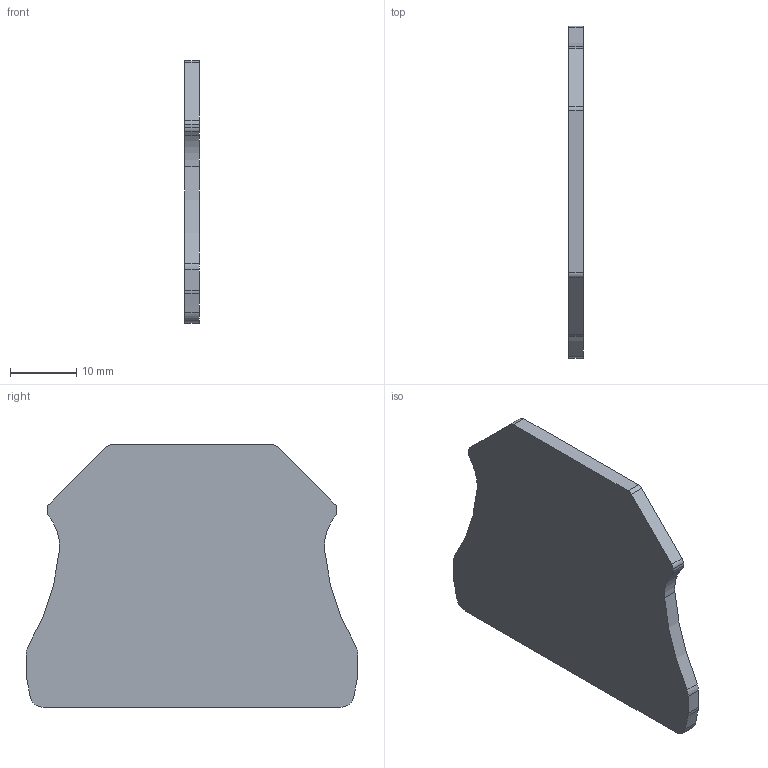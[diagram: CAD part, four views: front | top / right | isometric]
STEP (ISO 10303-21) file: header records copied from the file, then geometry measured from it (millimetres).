
FILE_DESCRIPTION( ('This file contains a STEP AP42 implementation' ,'as created by ZW3D STEP Interface translator.') ,'2;1' );
FILE_NAME( 'D-RUT2.5-10傷啣耀倰.stp' ,'23 4 7.18 1 6', (''), ('ZWCAD Software Co.'), 'Version 1.0', 'ZW3D to STEP translator', '' );
FILE_SCHEMA(('AUTOMOTIVE_DESIGN { 1 0 10303 214 1 1 1 1 }'));
Length unit declared in the file: millimetre
Products named in the file (2): 0; D-RUT2.5-10傷啣耀倰
Bounding box: 2.2 x 50 x 39.5 mm (x, y, z)
Volume: 3681.9 mm3; surface area: 3702.7 mm2
Topology: 1 solids, 1 shells, 30 faces, 116 edges, 120 vertices
Faces by surface type: cylinder 18, plane 12
Entity records: 1261 total; most frequent: DIRECTION 232, CARTESIAN_POINT 203, ORIENTED_EDGE 168, AXIS2_PLACEMENT_3D 85, EDGE_CURVE 84, VECTOR 62, LINE 62, VERTEX_POINT 56
